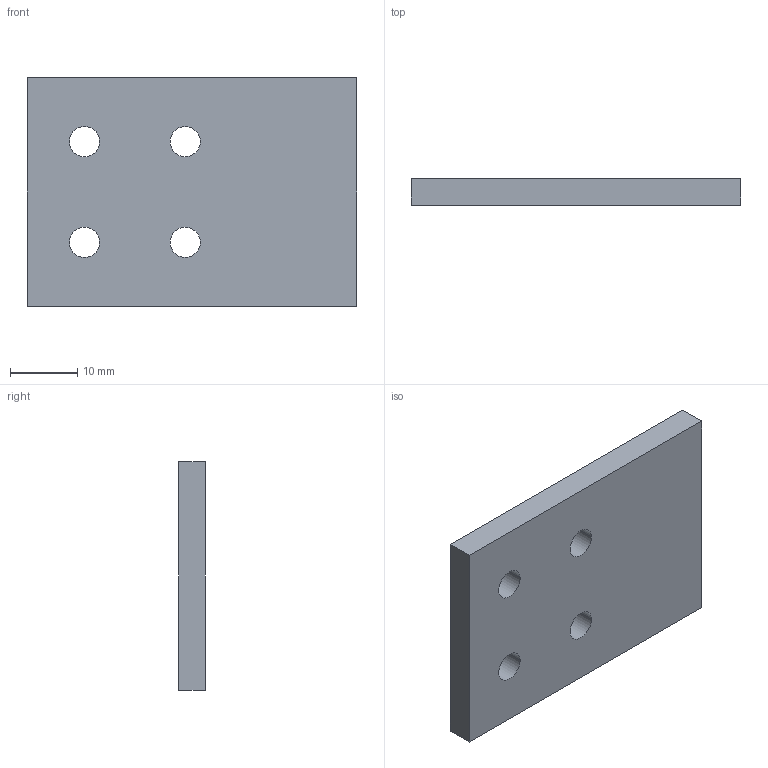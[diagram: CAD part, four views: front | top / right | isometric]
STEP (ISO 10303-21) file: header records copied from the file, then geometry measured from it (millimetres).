
FILE_DESCRIPTION( ( '' ), '1' );
FILE_NAME( 'E:/04 嬴檜蠱滌/0404 ZIMMER/040414 ZIMMER CAD download/Adapt plate/PLK for LKP, LKPS/PLK15-4.stp', '2020-04-16T10:19:37', ( '' ), ( '' ), ' ', ' ', ' ' );
FILE_SCHEMA( ( 'automotive_design' ) );
Length unit declared in the file: millimetre
Products named in the file (1): 1
Bounding box: 49 x 4 x 34 mm (x, y, z)
Volume: 6409.5 mm3; surface area: 4095 mm2
Topology: 1 solids, 1 shells, 14 faces, 36 edges, 24 vertices
Faces by surface type: cylinder 8, plane 6
Entity records: 888 total; most frequent: DIRECTION 82, STYLED_ITEM 75, PRESENTATION_STYLE_ASSIGNMENT 75, CARTESIAN_POINT 75, COLOUR_RGB 75, ORIENTED_EDGE 72, EDGE_CURVE 36, CURVE_STYLE 36
